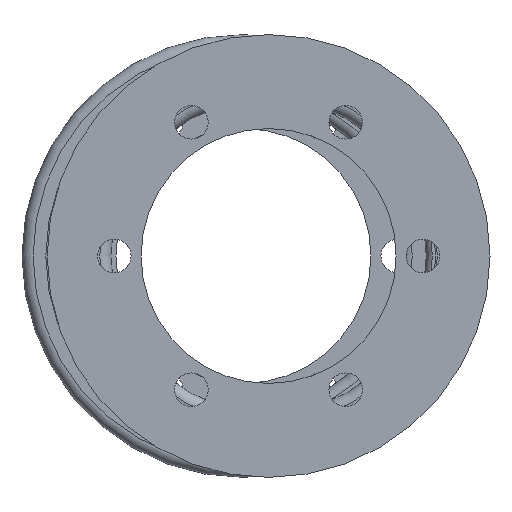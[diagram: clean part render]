
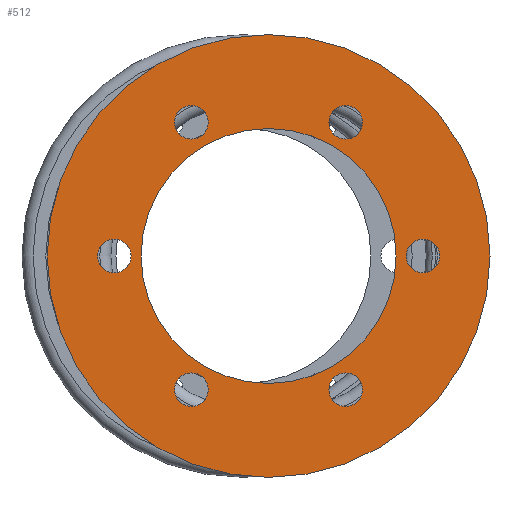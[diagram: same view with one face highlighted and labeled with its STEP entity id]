
A CAD part, left-side view. The second image highlights one B-rep face of the part: STEP entity #512.
In plain terms, the highlighted planar face has unit normal (-1, 0, 0).
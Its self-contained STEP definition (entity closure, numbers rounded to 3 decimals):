
#512 = ADVANCED_FACE( 'NONE', ( #753, #754, #755, #756, #757, #758, #759, #760 ), #761, .F. );
#753 = FACE_OUTER_BOUND( '', #871, .T. );
#754 = FACE_BOUND( '', #872, .T. );
#755 = FACE_BOUND( '', #873, .T. );
#756 = FACE_BOUND( '', #874, .T. );
#757 = FACE_BOUND( '', #875, .T. );
#758 = FACE_BOUND( '', #876, .T. );
#759 = FACE_BOUND( '', #877, .T. );
#760 = FACE_BOUND( '', #878, .T. );
#761 = PLANE( '', #879 );
#871 = EDGE_LOOP( '', ( #1029 ) );
#872 = EDGE_LOOP( '', ( #1030 ) );
#873 = EDGE_LOOP( '', ( #1031 ) );
#874 = EDGE_LOOP( '', ( #1032 ) );
#875 = EDGE_LOOP( '', ( #1033 ) );
#876 = EDGE_LOOP( '', ( #1034 ) );
#877 = EDGE_LOOP( '', ( #1035 ) );
#878 = EDGE_LOOP( '', ( #1036 ) );
#879 = AXIS2_PLACEMENT_3D( '', #1037, #1038, #1039 );
#1029 = ORIENTED_EDGE( '', *, *, #1202, .T. );
#1030 = ORIENTED_EDGE( '', *, *, #1203, .F. );
#1031 = ORIENTED_EDGE( '', *, *, #1204, .F. );
#1032 = ORIENTED_EDGE( '', *, *, #1205, .F. );
#1033 = ORIENTED_EDGE( '', *, *, #1206, .F. );
#1034 = ORIENTED_EDGE( '', *, *, #1207, .F. );
#1035 = ORIENTED_EDGE( '', *, *, #1200, .F. );
#1036 = ORIENTED_EDGE( '', *, *, #1208, .F. );
#1037 = CARTESIAN_POINT( '', ( 0., 19., 0. ) );
#1038 = DIRECTION( '', ( 1., 0., 0. ) );
#1039 = DIRECTION( '', ( 0., 1., 0. ) );
#1200 = EDGE_CURVE( 'NONE', #1330, #1330, #1331, .T. );
#1202 = EDGE_CURVE( 'NONE', #1334, #1334, #1335, .T. );
#1203 = EDGE_CURVE( 'NONE', #1336, #1336, #1337, .T. );
#1204 = EDGE_CURVE( 'NONE', #1338, #1338, #1339, .T. );
#1205 = EDGE_CURVE( 'NONE', #1340, #1340, #1341, .T. );
#1206 = EDGE_CURVE( 'NONE', #1342, #1342, #1343, .T. );
#1207 = EDGE_CURVE( 'NONE', #1344, #1344, #1345, .T. );
#1208 = EDGE_CURVE( 'NONE', #1346, #1346, #1347, .T. );
#1330 = VERTEX_POINT( '', #1362 );
#1331 = CIRCLE( '', #1363, 2.5 );
#1334 = VERTEX_POINT( '', #1366 );
#1335 = CIRCLE( '', #1367, 33. );
#1336 = VERTEX_POINT( '', #1368 );
#1337 = CIRCLE( '', #1369, 2.5 );
#1338 = VERTEX_POINT( '', #1370 );
#1339 = CIRCLE( '', #1371, 2.5 );
#1340 = VERTEX_POINT( '', #1372 );
#1341 = CIRCLE( '', #1373, 2.5 );
#1342 = VERTEX_POINT( '', #1374 );
#1343 = CIRCLE( '', #1375, 2.5 );
#1344 = VERTEX_POINT( '', #1376 );
#1345 = CIRCLE( '', #1377, 19. );
#1346 = VERTEX_POINT( '', #1378 );
#1347 = CIRCLE( '', #1379, 2.5 );
#1362 = CARTESIAN_POINT( '', ( 0., -23., 2.5 ) );
#1363 = AXIS2_PLACEMENT_3D( '', #1394, #1395, #1396 );
#1366 = CARTESIAN_POINT( '', ( 0., 0., 33. ) );
#1367 = AXIS2_PLACEMENT_3D( '', #1400, #1401, #1402 );
#1368 = CARTESIAN_POINT( '', ( 0., -11.5, 22.419 ) );
#1369 = AXIS2_PLACEMENT_3D( '', #1403, #1404, #1405 );
#1370 = CARTESIAN_POINT( '', ( 0., -11.5, -17.419 ) );
#1371 = AXIS2_PLACEMENT_3D( '', #1406, #1407, #1408 );
#1372 = CARTESIAN_POINT( '', ( 0., 11.5, -17.419 ) );
#1373 = AXIS2_PLACEMENT_3D( '', #1409, #1410, #1411 );
#1374 = CARTESIAN_POINT( '', ( 0., 23., 2.5 ) );
#1375 = AXIS2_PLACEMENT_3D( '', #1412, #1413, #1414 );
#1376 = CARTESIAN_POINT( '', ( 0., 0., 19. ) );
#1377 = AXIS2_PLACEMENT_3D( '', #1415, #1416, #1417 );
#1378 = CARTESIAN_POINT( '', ( 0., 11.5, 22.419 ) );
#1379 = AXIS2_PLACEMENT_3D( '', #1418, #1419, #1420 );
#1394 = CARTESIAN_POINT( '', ( 0., -23., 0. ) );
#1395 = DIRECTION( '', ( -1., 0., 0. ) );
#1396 = DIRECTION( '', ( 0., 0., 1. ) );
#1400 = CARTESIAN_POINT( '', ( 0., 0., 0. ) );
#1401 = DIRECTION( '', ( -1., 0., 0. ) );
#1402 = DIRECTION( '', ( 0., 0., 1. ) );
#1403 = CARTESIAN_POINT( '', ( 0., -11.5, 19.919 ) );
#1404 = DIRECTION( '', ( -1., 0., 0. ) );
#1405 = DIRECTION( '', ( 0., 0., 1. ) );
#1406 = CARTESIAN_POINT( '', ( 0., -11.5, -19.919 ) );
#1407 = DIRECTION( '', ( -1., 0., 0. ) );
#1408 = DIRECTION( '', ( 0., 0., 1. ) );
#1409 = CARTESIAN_POINT( '', ( 0., 11.5, -19.919 ) );
#1410 = DIRECTION( '', ( -1., 0., 0. ) );
#1411 = DIRECTION( '', ( 0., 0., 1. ) );
#1412 = CARTESIAN_POINT( '', ( 0., 23., 0. ) );
#1413 = DIRECTION( '', ( -1., 0., 0. ) );
#1414 = DIRECTION( '', ( 0., 0., 1. ) );
#1415 = CARTESIAN_POINT( '', ( 0., 0., 0. ) );
#1416 = DIRECTION( '', ( -1., 0., 0. ) );
#1417 = DIRECTION( '', ( 0., 0., 1. ) );
#1418 = CARTESIAN_POINT( '', ( 0., 11.5, 19.919 ) );
#1419 = DIRECTION( '', ( -1., 0., 0. ) );
#1420 = DIRECTION( '', ( 0., 0., 1. ) );
